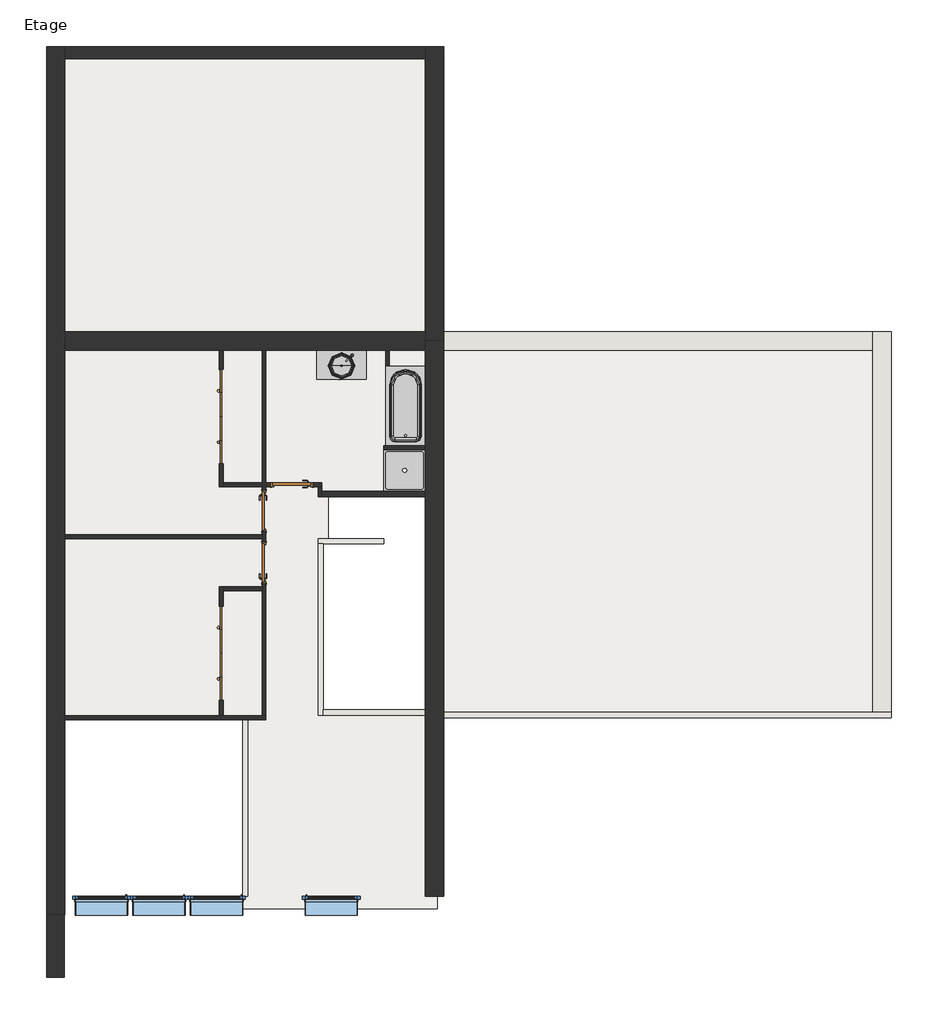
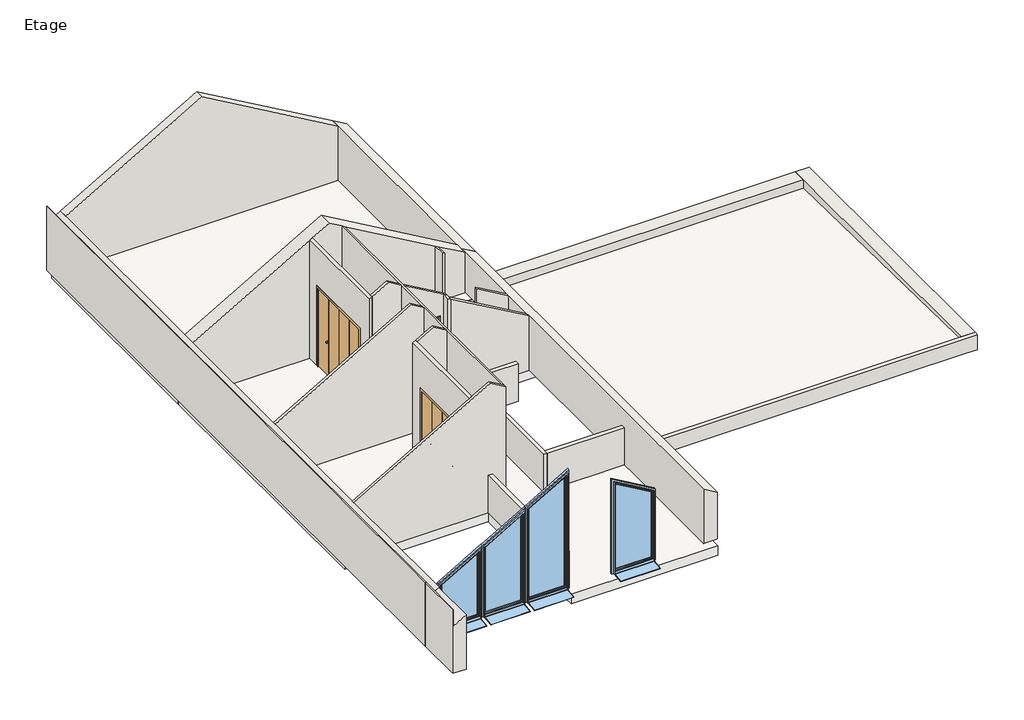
# One storey, incomplete: 25 walls, 5 doors, 4 windows, 3 flow terminals, 3 slabs, 1 furniture element, 1 roof.
"""IFC4 building model written with IfcOpenShell, lengths in millimetres."""

from ifc_helpers import new_model, si_unit, frame, origin, place, context, project, spatial, polyline, outline, extrude, faceted_brep, transform, mapped, element, save
from components import door_180cm_x_210cm_d4e2d69c, int_simple_pp_0_73m_x_2_04m_31faaed5, int_simple_pp_0_73m_x_2_04m_359deddd, flow_terminal_414a0167, flow_terminal_800_x_800mm_07a2eba6, baignoire_rectangulaire_mur_baignoire_rectangulaire_mur_f2afccf1, furniture_900mm_0b803dc7, window_1_vantail_angle_1_00m_x_1_83m_b6dea95d, window_1_vantail_angle_1_00m_x_2_45m_7bd88ca6, window_1_vantail_angle_1_00m_x_2_45m_d07fa77f, window_1_vantail_angle_1_00m_x_3_09m_aeb0207c

model = new_model("IFC4")

# Units and contexts
model_context = context("Model", 3, world=origin())
ifc_project = project(units=[si_unit("LENGTHUNIT", "METRE", prefix="MILLI")], contexts=[model_context])

# Site, building, storey
site = spatial("IfcSite", under=ifc_project)
building = spatial("IfcBuilding", under=site)
storey = spatial("IfcBuildingStorey", under=building, Name="Etage", Elevation=3000.0)

# Doors
placement = place(None, origin())
door_180cm_x_210cm_shape = door_180cm_x_210cm_d4e2d69c(model_context)
element("IfcDoor", 1, ObjectType="Placard double pliante : 180cm x 210cm", at=placement, inside=storey, context=model_context, shape_type="MappedRepresentation", body=[
    mapped(door_180cm_x_210cm_shape, transform((-4616.3224934, 785.4574199, 3000.0), x_axis=(0.0, -1.0, 0.0), y_axis=(1.0, 0.0, 0.0), z_axis=(0.0, 0.0, 1.0))),
])
element("IfcDoor", 2, ObjectType="Placard double pliante : 180cm x 210cm", at=placement, inside=storey, context=model_context, shape_type="MappedRepresentation", body=[
    mapped(door_180cm_x_210cm_shape, transform((-4616.3224934, -3737.5425801, 3000.0), x_axis=(0.0, -1.0, 0.0), y_axis=(1.0, 0.0, 0.0), z_axis=(0.0, 0.0, 1.0))),
])
int_simple_pp_0_73m_x_2_04m_shape = int_simple_pp_0_73m_x_2_04m_31faaed5(model_context)
element("IfcDoor", 3, ObjectType="Int. Simple : PP (0.73m x 2.04m)", at=placement, inside=storey, context=model_context, shape_type="MappedRepresentation", body=[
    mapped(int_simple_pp_0_73m_x_2_04m_shape, transform((-3801.3224934, -1975.0425801, 3000.0), x_axis=(0.0, 1.0, 0.0), y_axis=(-1.0, 0.0, 0.0), z_axis=(0.0, 0.0, 1.0))),
])
int_simple_pp_0_73m_x_2_04m_2_shape = int_simple_pp_0_73m_x_2_04m_359deddd(model_context)
element("IfcDoor", 4, ObjectType="Int. Simple : PP (0.73m x 2.04m)", at=placement, inside=storey, context=model_context, shape_type="MappedRepresentation", body=[
    mapped(int_simple_pp_0_73m_x_2_04m_2_shape, transform((-3801.3224934, -1053.0425801, 3000.0), x_axis=(0.0, -1.0, 0.0), y_axis=(1.0, 0.0, 0.0), z_axis=(0.0, 0.0, 1.0))),
])
element("IfcDoor", 5, ObjectType="Int. Simple : PP (0.73m x 2.04m)", at=placement, inside=storey, context=model_context, shape_type="MappedRepresentation", body=[
    mapped(int_simple_pp_0_73m_x_2_04m_2_shape, transform((-3304.3224934, -520.0425801, 3000.0), x_axis=(-1.0, 0.0, 0.0), y_axis=(0.0, -1.0, 0.0), z_axis=(0.0, 0.0, 1.0))),
])

# Flow terminals
flow_terminal_shape = flow_terminal_414a0167(model_context)
element("IfcFlowTerminal", 6, ObjectType="Lavabo moderne : Lavabo moderne", at=placement, inside=storey, context=model_context, shape_type="MappedRepresentation", body=[
    mapped(flow_terminal_shape, transform((-2344.1723599, 2054.9574199, 3740.0), x_axis=(1.0, 0.0, 0.0), y_axis=(0.0, 1.0, 0.0), z_axis=(0.0, 0.0, 1.0))),
])
flow_terminal_800_x_800mm_shape = flow_terminal_800_x_800mm_07a2eba6(model_context)
element("IfcFlowTerminal", 7, ObjectType="Receveur d'angle - Vidange axée : 800 x 800mm", at=placement, inside=storey, context=model_context, shape_type="MappedRepresentation", body=[
    mapped(flow_terminal_800_x_800mm_shape, transform((-1116.697342, -245.1038978, 3000.0), x_axis=(1.0, 0.0, 0.0), y_axis=(0.0, 1.0, 0.0), z_axis=(0.0, 0.0, 1.0))),
])
baignoire_rectangulaire_mur_baignoire_rectangulaire_mur_shape = baignoire_rectangulaire_mur_baignoire_rectangulaire_mur_f2afccf1(model_context)
element("IfcFlowTerminal", 8, ObjectType="Baignoire rectangulaire - Mur : Baignoire rectangulaire - Mur", at=placement, inside=storey, context=model_context, shape_type="MappedRepresentation", body=[
    mapped(baignoire_rectangulaire_mur_baignoire_rectangulaire_mur_shape, transform((-541.697342, 1337.4990709, 3000.0), x_axis=(0.0, 1.0, 0.0), y_axis=(-1.0, 0.0, 0.0), z_axis=(0.0, 0.0, 1.0))),
])

# Furniture
furniture_900mm_shape = furniture_900mm_0b803dc7(model_context)
element("IfcFurniture", 9, ObjectType="Meuble sous lavabo - Porte simple et 2 tiroirs : 900mm", at=placement, inside=storey, context=model_context, shape_type="MappedRepresentation", body=[
    mapped(furniture_900mm_shape, transform((-2414.2601983, 2054.9574199, 3000.0), x_axis=(1.0, 0.0, 0.0), y_axis=(0.0, 1.0, 0.0), z_axis=(0.0, 0.0, 1.0))),
])

# Roof
element("IfcRoof", 10, ObjectType="Toiture terrasse", at=placement, inside=storey, context=model_context, shape_type="SweptSolid", body=[
    extrude(outline(polyline([(-4867.1038978, 3320.0639936), (2054.9574199, 3181.6227672), (2054.9574199, 2861.5587736), (-4804.9508532, 2998.7569391), (-4867.1038978, 3034.6410162), (-4867.1038978, 3320.0639936)])), frame((-366.697342, 0.0, 0.0), z_axis=(1.0, 0.0, 0.0), x_axis=(0.0, 1.0, 0.0)), (0.0, 0.0, 1.0), 8200.0),
])

# Slabs
element("IfcSlab", 11, ObjectType="Dalle en béton", at=placement, inside=storey, context=model_context, shape_type="Brep", body=[
    faceted_brep([(-486.697342, -8615.0425801, 2750.0), (-4198.697342, -8615.0425801, 2750.0), (-4198.697342, -8385.0425801, 2750.0), (-4198.697342, -4992.0425801, 2750.0), (-4211.697342, -4992.0425801, 2750.0), (-7606.697342, -4992.0425801, 2750.0), (-7836.697342, -4992.0425801, 2750.0), (-7836.697342, 2284.9574199, 2750.0), (-7606.697342, 2284.9574199, 2750.0), (-716.697342, 2284.9574199, 2750.0), (-486.697342, 2284.9574199, 2750.0), (-486.697342, 2229.9574199, 2750.0), (-486.697342, 757.8961022, 2750.0), (-486.697342, -732.1038978, 2750.0), (-716.697342, -732.1038978, 2750.0), (-2577.5004576, -732.1038978, 2750.0), (-2577.5004576, -745.1038978, 2750.0), (-2577.5004576, -1545.1038978, 2750.0), (-2577.5004576, -1632.1038978, 2750.0), (-2619.1256089, -1632.1038978, 2750.0), (-2682.3224934, -1632.1038978, 2750.0), (-2682.3224934, -1645.1038978, 2750.0), (-2682.3224934, -4831.0425801, 2750.0), (-2669.3224934, -4831.0425801, 2750.0), (-716.697342, -4831.0425801, 2750.0), (-486.697342, -4831.0425801, 2750.0), (-486.697342, -8385.0425801, 2750.0), (-486.697342, -8615.0425801, 3000.0), (-486.697342, -8385.0425801, 3000.0), (-486.697342, -4831.0425801, 3000.0), (-716.697342, -4831.0425801, 3000.0), (-2669.3224934, -4831.0425801, 3000.0), (-2682.3224934, -4831.0425801, 3000.0), (-2682.3224934, -1645.1038978, 3000.0), (-2682.3224934, -1632.1038978, 3000.0), (-2619.1256089, -1632.1038978, 3000.0), (-2577.5004576, -1632.1038978, 3000.0), (-2577.5004576, -1545.1038978, 3000.0), (-2577.5004576, -745.1038978, 3000.0), (-2577.5004576, -732.1038978, 3000.0), (-716.697342, -732.1038978, 3000.0), (-486.697342, -732.1038978, 3000.0), (-486.697342, 757.8961022, 3000.0), (-486.697342, 2229.9574199, 3000.0), (-486.697342, 2284.9574199, 3000.0), (-716.697342, 2284.9574199, 3000.0), (-7606.697342, 2284.9574199, 3000.0), (-7836.697342, 2284.9574199, 3000.0), (-7836.697342, -4992.0425801, 3000.0), (-7606.697342, -4992.0425801, 3000.0), (-4211.697342, -4992.0425801, 3000.0), (-4198.697342, -4992.0425801, 3000.0), (-4198.697342, -8385.0425801, 3000.0), (-4198.697342, -8615.0425801, 3000.0)], [[[0, 1, 2, 3, 4, 5, 6, 7, 8, 9, 10, 11, 12, 13, 14, 15, 16, 17, 18, 19, 20, 21, 22, 23, 24, 25, 26]], [[27, 28, 29, 30, 31, 32, 33, 34, 35, 36, 37, 38, 39, 40, 41, 42, 43, 44, 45, 46, 47, 48, 49, 50, 51, 52, 53]], [[1, 0, 27, 53]], [[7, 6, 48, 47]], [[10, 9, 8, 7, 47, 46, 45, 44]], [[0, 26, 25, 29, 28, 27]], [[3, 2, 1, 53, 52, 51]], [[6, 5, 4, 3, 51, 50, 49, 48]], [[13, 12, 11, 10, 44, 43, 42, 41]], [[15, 14, 13, 41, 40, 39]], [[18, 17, 16, 15, 39, 38, 37, 36]], [[20, 19, 18, 36, 35, 34]], [[22, 21, 20, 34, 33, 32]], [[25, 24, 23, 22, 32, 31, 30, 29]]]),
])
element("IfcSlab", 12, ObjectType="Dalle en béton", at=placement, inside=storey, context=model_context, shape_type="Brep", body=[
    faceted_brep([(-486.697342, 7834.9574199, 2750.0), (-486.697342, 2284.9574199, 2750.0), (-7836.697342, 2284.9574199, 2750.0), (-7836.697342, 7624.9574199, 2750.0), (-7836.697342, 7834.9574199, 2750.0), (-5616.5193778, 7834.9574199, 2750.0), (-486.697342, 7834.9574199, 3000.0), (-5616.5193778, 7834.9574199, 3000.0), (-7836.697342, 7834.9574199, 3000.0), (-7836.697342, 7624.9574199, 3000.0), (-7836.697342, 2284.9574199, 3000.0), (-486.697342, 2284.9574199, 3000.0)], [[[0, 1, 2, 3, 4, 5]], [[6, 7, 8, 9, 10, 11]], [[1, 0, 6, 11]], [[2, 1, 11, 10]], [[4, 3, 2, 10, 9, 8]], [[0, 5, 4, 8, 7, 6]]]),
])
element("IfcSlab", 13, ObjectType="Carrelage", at=placement, inside=storey, context=model_context, shape_type="Brep", body=[
    faceted_brep([(-716.697342, 2054.9574199, 3330.0), (-716.697342, 1751.8961022, 3330.0), (-1406.697342, 1751.8961022, 3330.0), (-1478.697342, 1751.8961022, 3330.0), (-1478.697342, 2054.9574199, 3330.0), (-1406.697342, 2054.9574199, 3330.0), (-716.697342, 2054.9574199, 3380.0), (-1406.697342, 2054.9574199, 3380.0), (-1478.697342, 2054.9574199, 3380.0), (-1478.697342, 1751.8961022, 3380.0), (-1406.697342, 1751.8961022, 3380.0), (-716.697342, 1751.8961022, 3380.0)], [[[0, 1, 2, 3, 4, 5]], [[6, 7, 8, 9, 10, 11]], [[1, 0, 6, 11]], [[3, 2, 1, 11, 10, 9]], [[4, 3, 9, 8]], [[0, 5, 4, 8, 7, 6]]]),
])

# Walls
element("IfcWall", 14, ObjectType="Ext. Bardage Métal + Isolant + Béton + Finition", at=placement, inside=storey, context=model_context, shape_type="Brep", body=[
    faceted_brep([(-7956.697342, 7854.9574199, 3000.0), (-7956.697342, 7624.9574199, 3000.0), (-7956.697342, -8735.0425801, 3000.0), (-7956.697342, -8735.0425801, 4700.0), (-7956.697342, 7854.9574199, 4700.0), (-7606.697342, 7854.9574199, 3000.0), (-7606.697342, 7854.9574199, 4452.0725942), (-7606.697342, 7624.9574199, 4452.0725942), (-7606.697342, 2404.9574199, 4452.0725942), (-7606.697342, 2054.9574199, 4452.0725942), (-7606.697342, -1478.0425801, 4452.0725942), (-7606.697342, -1550.0425801, 4452.0725942), (-7606.697342, -4933.0425801, 4452.0725942), (-7606.697342, -5005.0425801, 4452.0725942), (-7606.697342, -8385.0425801, 4452.0725942), (-7606.697342, -8735.0425801, 4452.0725942), (-7606.697342, -8735.0425801, 3000.0), (-7606.697342, -8385.0425801, 3000.0), (-7606.697342, -5005.0425801, 3000.0), (-7606.697342, -4992.0425801, 3000.0), (-7606.697342, -4933.0425801, 3000.0), (-7606.697342, -1550.0425801, 3000.0), (-7606.697342, -1478.0425801, 3000.0), (-7606.697342, 2054.9574199, 3000.0), (-7606.697342, 2284.9574199, 3000.0), (-7606.697342, 2404.9574199, 3000.0), (-7606.697342, 7624.9574199, 3000.0), (-7616.697342, -8735.0425801, 3000.0), (-7936.697342, 7854.9574199, 4700.0), (-7936.697342, 7854.9574199, 4261.5470054), (-7616.697342, -8735.0425801, 4446.2990915), (-7936.697342, -8735.0425801, 4261.5470054), (-7936.697342, -8735.0425801, 4700.0)], [[[0, 1, 2, 3, 4]], [[5, 6, 7, 8, 9, 10, 11, 12, 13, 14, 15, 16, 17, 18, 19, 20, 21, 22, 23, 24, 25, 26]], [[2, 1, 0, 5, 26, 25, 24, 23, 22, 21, 20, 19, 18, 17, 16, 27]], [[0, 4, 28, 29, 6, 5]], [[3, 2, 27, 16, 15, 30, 31, 32]], [[4, 3, 32, 28]], [[28, 32, 31, 29]], [[31, 30, 15, 14, 13, 12, 11, 10, 9, 8, 7, 6, 29]]]),
])
element("IfcWall", 15, ObjectType="Ext. Bardage Bois + Isolant + Béton + Finition", at=placement, inside=storey, context=model_context, shape_type="Brep", body=[
    faceted_brep([(-366.697342, -8385.0425801, 3000.0), (-366.697342, -4967.1038978, 3000.0), (-366.697342, -4867.1038978, 3000.0), (-366.697342, -3635.0425801, 3000.0), (-366.697342, 2054.9574199, 3000.0), (-366.697342, 2229.9574199, 3000.0), (-366.697342, 2229.9574199, 4250.0), (-366.697342, -8385.0425801, 4250.0), (-716.697342, -8385.0425801, 3000.0), (-716.697342, -8385.0425801, 4452.0725942), (-716.697342, -745.1038978, 4452.0725942), (-716.697342, -645.1038978, 4452.0725942), (-716.697342, 154.8961022, 4452.0725942), (-716.697342, 226.8961022, 4452.0725942), (-716.697342, 2054.9574199, 4452.0725942), (-716.697342, 2229.9574199, 4452.0725942), (-716.697342, 2229.9574199, 3000.0), (-716.697342, 2054.9574199, 3000.0), (-716.697342, 226.8961022, 3000.0), (-716.697342, 154.8961022, 3000.0), (-716.697342, -645.1038978, 3000.0), (-716.697342, -732.1038978, 3000.0), (-716.697342, -745.1038978, 3000.0), (-716.697342, -3635.0425801, 3000.0), (-716.697342, -4818.0425801, 3000.0), (-716.697342, -4831.0425801, 3000.0), (-716.697342, -4918.0425801, 3000.0), (-486.697342, -8385.0425801, 3000.0), (-486.697342, 2229.9574199, 3000.0)], [[[0, 1, 2, 3, 4, 5, 6, 7]], [[8, 9, 10, 11, 12, 13, 14, 15, 16, 17, 18, 19, 20, 21, 22, 23, 24, 25, 26]], [[5, 4, 3, 2, 1, 0, 27, 8, 26, 25, 24, 23, 22, 21, 20, 19, 18, 17, 16, 28]], [[0, 7, 9, 8, 27]], [[5, 28, 16, 15, 6]], [[7, 6, 15, 14, 13, 12, 11, 10, 9]]]),
])
element("IfcWall", 16, ObjectType="Ext. Bardage Bois + Isolant + Béton + Finition", at=placement, inside=storey, context=model_context, shape_type="Brep", body=[
    faceted_brep([(-716.697342, 2404.9574199, 4452.0725942), (-716.697342, 2404.9574199, 3000.0), (-7606.697342, 2404.9574199, 3000.0), (-7606.697342, 2404.9574199, 4452.0725942), (-4161.697342, 2404.9574199, 6441.0442716), (-716.697342, 2054.9574199, 3000.0), (-716.697342, 2054.9574199, 4452.0725942), (-1406.697342, 2054.9574199, 4850.44428), (-1478.697342, 2054.9574199, 4892.0134993), (-3765.3224934, 2054.9574199, 6212.197146), (-3837.3224934, 2054.9574199, 6253.7663654), (-4161.697342, 2054.9574199, 6441.0442716), (-4580.3224934, 2054.9574199, 6199.3509277), (-4652.3224934, 2054.9574199, 6157.7817084), (-7606.697342, 2054.9574199, 4452.0725942), (-7606.697342, 2054.9574199, 3000.0), (-4652.3224934, 2054.9574199, 3000.0), (-4580.3224934, 2054.9574199, 3000.0), (-3837.3224934, 2054.9574199, 3000.0), (-3765.3224934, 2054.9574199, 3000.0), (-1478.697342, 2054.9574199, 3000.0), (-1406.697342, 2054.9574199, 3000.0), (-716.697342, 2284.9574199, 3000.0), (-716.697342, 2229.9574199, 3000.0), (-716.697342, 2229.9574199, 4452.0725942)], [[[0, 1, 2, 3, 4]], [[5, 6, 7, 8, 9, 10, 11, 12, 13, 14, 15, 16, 17, 18, 19, 20, 21]], [[2, 1, 22, 23, 5, 21, 20, 19, 18, 17, 16, 15]], [[3, 2, 15, 14]], [[0, 24, 6, 5, 23, 22, 1]], [[0, 4, 11, 10, 9, 8, 7, 6, 24]], [[4, 3, 14, 13, 12, 11]]]),
])
element("IfcWall", 17, ObjectType="Int. Plâtre 70 mm", at=placement, inside=storey, context=model_context, shape_type="Brep", body=[
    faceted_brep([(-7606.697342, -5005.0425801, 3000.0), (-4211.697342, -5005.0425801, 3000.0), (-4111.697342, -5005.0425801, 3000.0), (-3765.3224934, -5005.0425801, 3000.0), (-3765.3224934, -5005.0425801, 6212.197146), (-4161.697342, -5005.0425801, 6441.0442716), (-7606.697342, -5005.0425801, 4452.0725942), (-7606.697342, -4933.0425801, 3000.0), (-7606.697342, -4933.0425801, 4452.0725942), (-4652.3224934, -4933.0425801, 6157.7817084), (-4580.3224934, -4933.0425801, 6199.3509277), (-4161.697342, -4933.0425801, 6441.0442716), (-3837.3224934, -4933.0425801, 6253.7663654), (-3765.3224934, -4933.0425801, 6212.197146), (-3765.3224934, -4933.0425801, 3000.0), (-3837.3224934, -4933.0425801, 3000.0), (-4580.3224934, -4933.0425801, 3000.0), (-4652.3224934, -4933.0425801, 3000.0), (-7606.697342, -4992.0425801, 3000.0)], [[[0, 1, 2, 3, 4, 5, 6]], [[7, 8, 9, 10, 11, 12, 13, 14, 15, 16, 17]], [[3, 2, 1, 0, 18, 7, 17, 16, 15, 14]], [[0, 6, 8, 7, 18]], [[4, 3, 14, 13]], [[6, 5, 11, 10, 9, 8]], [[5, 4, 13, 12, 11]]]),
])
element("IfcWall", 18, ObjectType="Int. Plâtre 70 mm", at=placement, inside=storey, context=model_context, shape_type="Brep", body=[
    faceted_brep([(-3765.3224934, -4933.0425801, 6212.197146), (-3765.3224934, -4933.0425801, 3000.0), (-3765.3224934, -2410.0425801, 3000.0), (-3765.3224934, -2410.0425801, 5075.0), (-3765.3224934, -1610.0425801, 5075.0), (-3765.3224934, -1610.0425801, 3000.0), (-3765.3224934, -1418.0425801, 3000.0), (-3765.3224934, -1418.0425801, 5075.0), (-3765.3224934, -618.0425801, 5075.0), (-3765.3224934, -618.0425801, 3000.0), (-3765.3224934, -556.0425801, 3000.0), (-3765.3224934, -484.0425801, 3000.0), (-3765.3224934, 2054.9574199, 3000.0), (-3765.3224934, 2054.9574199, 6212.197146), (-3765.3224934, -484.0425801, 6212.197146), (-3765.3224934, -556.0425801, 6212.197146), (-3837.3224934, -4933.0425801, 3000.0), (-3837.3224934, -4933.0425801, 6253.7663654), (-3837.3224934, -2542.0425801, 6253.7663654), (-3837.3224934, -2470.0425801, 6253.7663654), (-3837.3224934, -1550.0425801, 6253.7663654), (-3837.3224934, -1478.0425801, 6253.7663654), (-3837.3224934, -556.0425801, 6253.7663654), (-3837.3224934, -484.0425801, 6253.7663654), (-3837.3224934, 2054.9574199, 6253.7663654), (-3837.3224934, 2054.9574199, 3000.0), (-3837.3224934, -484.0425801, 3000.0), (-3837.3224934, -556.0425801, 3000.0), (-3837.3224934, -618.0425801, 3000.0), (-3837.3224934, -618.0425801, 5075.0), (-3837.3224934, -1418.0425801, 5075.0), (-3837.3224934, -1418.0425801, 3000.0), (-3837.3224934, -1478.0425801, 3000.0), (-3837.3224934, -1550.0425801, 3000.0), (-3837.3224934, -1610.0425801, 3000.0), (-3837.3224934, -1610.0425801, 5075.0), (-3837.3224934, -2410.0425801, 5075.0), (-3837.3224934, -2410.0425801, 3000.0), (-3837.3224934, -2470.0425801, 3000.0), (-3837.3224934, -2542.0425801, 3000.0)], [[[0, 1, 2, 3, 4, 5, 6, 7, 8, 9, 10, 11, 12, 13, 14, 15]], [[16, 17, 18, 19, 20, 21, 22, 23, 24, 25, 26, 27, 28, 29, 30, 31, 32, 33, 34, 35, 36, 37, 38, 39]], [[1, 16, 39, 38, 37, 2]], [[25, 12, 11, 10, 9, 28, 27, 26]], [[5, 34, 33, 32, 31, 6]], [[1, 0, 17, 16]], [[13, 12, 25, 24]], [[4, 35, 34, 5]], [[35, 4, 3, 36]], [[36, 3, 2, 37]], [[30, 7, 6, 31]], [[7, 30, 29, 8]], [[8, 29, 28, 9]], [[0, 15, 14, 13, 24, 23, 22, 21, 20, 19, 18, 17]]]),
])
element("IfcWall", 19, ObjectType="Int. Plâtre 70 mm", at=placement, inside=storey, context=model_context, shape_type="Brep", body=[
    faceted_brep([(-4652.3224934, 2054.9574199, 6157.7817084), (-4652.3224934, 2054.9574199, 3000.0), (-4652.3224934, 1685.4574199, 3000.0), (-4652.3224934, 1685.4574199, 5100.0), (-4652.3224934, -114.5425801, 5100.0), (-4652.3224934, -114.5425801, 3000.0), (-4652.3224934, -556.0425801, 3000.0), (-4652.3224934, -556.0425801, 6157.7817084), (-4580.3224934, 2054.9574199, 3000.0), (-4580.3224934, 2054.9574199, 6199.3509277), (-4580.3224934, -484.0425801, 6199.3509277), (-4580.3224934, -556.0425801, 6199.3509277), (-4580.3224934, -556.0425801, 3000.0), (-4580.3224934, -484.0425801, 3000.0), (-4580.3224934, -114.5425801, 3000.0), (-4580.3224934, -114.5425801, 5100.0), (-4580.3224934, 1685.4574199, 5100.0), (-4580.3224934, 1685.4574199, 3000.0)], [[[0, 1, 2, 3, 4, 5, 6, 7]], [[8, 9, 10, 11, 12, 13, 14, 15, 16, 17]], [[1, 8, 17, 2]], [[12, 6, 5, 14, 13]], [[1, 0, 9, 8]], [[7, 6, 12, 11]], [[4, 15, 14, 5]], [[15, 4, 3, 16]], [[16, 3, 2, 17]], [[0, 7, 11, 10, 9]]]),
])
element("IfcWall", 20, ObjectType="Int. Plâtre 70 mm", at=placement, inside=storey, context=model_context, shape_type="SweptSolid", body=[
    extrude(outline(polyline([(3000.0, -4580.3224934), (3000.0, -3837.3224934), (6253.7663654, -3837.3224934), (6441.0442716, -4161.697342), (6199.3509277, -4580.3224934), (3000.0, -4580.3224934)])), frame((0.0, -556.0425801, 0.0), z_axis=(0.0, 1.0, 0.0), x_axis=(0.0, 0.0, 1.0)), (0.0, 0.0, 1.0), 72.0),
])
element("IfcWall", 21, ObjectType="Int. Plâtre 70 mm", at=placement, inside=storey, context=model_context, shape_type="Brep", body=[
    faceted_brep([(-2769.3224934, -556.0425801, 3000.0), (-2769.3224934, -745.1038978, 3000.0), (-2769.3224934, -745.1038978, 5637.1562779), (-2769.3224934, -556.0425801, 5637.1562779), (-2697.3224934, -556.0425801, 3000.0), (-2697.3224934, -556.0425801, 5595.5870585), (-2697.3224934, -645.1038978, 5595.5870585), (-2697.3224934, -745.1038978, 5595.5870585), (-2697.3224934, -745.1038978, 3000.0), (-2697.3224934, -645.1038978, 3000.0)], [[[0, 1, 2, 3]], [[4, 5, 6, 7, 8, 9]], [[1, 0, 4, 9, 8]], [[0, 3, 5, 4]], [[2, 1, 8, 7]], [[3, 2, 7, 6, 5]]]),
])
element("IfcWall", 22, ObjectType="Int. Plâtre 70 mm", at=placement, inside=storey, context=model_context, shape_type="SweptSolid", body=[
    extrude(outline(polyline([(3000.0, -716.697342), (4452.0725942, -716.697342), (4913.9528096, -1516.697342), (3000.0, -1516.697342), (3000.0, -716.697342)])), frame((0.0, 154.8961022, 0.0), z_axis=(0.0, 1.0, 0.0), x_axis=(0.0, 0.0, 1.0)), (0.0, 0.0, 1.0), 72.0),
])
element("IfcWall", 23, ObjectType="Int. Plâtre 70 mm", at=placement, inside=storey, context=model_context, shape_type="Brep", body=[
    faceted_brep([(-4580.3224934, -4933.0425801, 6199.3509277), (-4580.3224934, -4933.0425801, 3000.0), (-4580.3224934, -4637.5425801, 3000.0), (-4580.3224934, -4637.5425801, 5100.0), (-4580.3224934, -2837.5425801, 5100.0), (-4580.3224934, -2837.5425801, 3000.0), (-4580.3224934, -2542.0425801, 3000.0), (-4580.3224934, -2470.0425801, 3000.0), (-4580.3224934, -2470.0425801, 6199.3509277), (-4580.3224934, -2542.0425801, 6199.3509277), (-4652.3224934, -4933.0425801, 3000.0), (-4652.3224934, -4933.0425801, 6157.7817084), (-4652.3224934, -2470.0425801, 6157.7817084), (-4652.3224934, -2470.0425801, 3000.0), (-4652.3224934, -2837.5425801, 3000.0), (-4652.3224934, -2837.5425801, 5100.0), (-4652.3224934, -4637.5425801, 5100.0), (-4652.3224934, -4637.5425801, 3000.0)], [[[0, 1, 2, 3, 4, 5, 6, 7, 8, 9]], [[10, 11, 12, 13, 14, 15, 16, 17]], [[1, 10, 17, 2]], [[13, 7, 6, 5, 14]], [[1, 0, 11, 10]], [[8, 7, 13, 12]], [[16, 3, 2, 17]], [[3, 16, 15, 4]], [[4, 15, 14, 5]], [[0, 9, 8, 12, 11]]]),
])
element("IfcWall", 24, ObjectType="Int. Plâtre 70 mm", at=placement, inside=storey, context=model_context, shape_type="SweptSolid", body=[
    extrude(outline(polyline([(3000.0, -4580.3224934), (3000.0, -3837.3224934), (6253.7663654, -3837.3224934), (6441.0442716, -4161.697342), (6199.3509277, -4580.3224934), (3000.0, -4580.3224934)])), frame((0.0, -2542.0425801, 0.0), z_axis=(0.0, 1.0, 0.0), x_axis=(0.0, 0.0, 1.0)), (0.0, 0.0, 1.0), 72.0),
])
element("IfcWall", 25, ObjectType="Int. Plâtre 70 mm", at=placement, inside=storey, context=model_context, shape_type="SweptSolid", body=[
    extrude(outline(polyline([(3000.0, -3837.3224934), (6253.7663654, -3837.3224934), (6441.0442716, -4161.697342), (4452.0725942, -7606.697342), (3000.0, -7606.697342), (3000.0, -3837.3224934)])), frame((0.0, -1550.0425801, 0.0), z_axis=(0.0, 1.0, 0.0), x_axis=(0.0, 0.0, 1.0)), (0.0, 0.0, 1.0), 72.0),
])
element("IfcWall", 26, ObjectType="Int. Plâtre 100 mm", at=placement, inside=storey, context=model_context, shape_type="Brep", body=[
    faceted_brep([(-716.697342, -645.1038978, 3000.0), (-2697.3224934, -645.1038978, 3000.0), (-2697.3224934, -645.1038978, 5595.5870585), (-716.697342, -645.1038978, 4452.0725942), (-716.697342, -745.1038978, 3000.0), (-716.697342, -745.1038978, 4452.0725942), (-2697.3224934, -745.1038978, 5595.5870585), (-2697.3224934, -745.1038978, 3000.0), (-2577.5004576, -745.1038978, 3000.0), (-716.697342, -732.1038978, 3000.0)], [[[0, 1, 2, 3]], [[4, 5, 6, 7, 8]], [[1, 0, 9, 4, 8, 7]], [[0, 3, 5, 4, 9]], [[2, 1, 7, 6]], [[3, 2, 6, 5]]]),
])
element("IfcWall", 27, ObjectType="Int. Plâtre 100 mm", at=placement, inside=storey, context=model_context, shape_type="Brep", body=[
    faceted_brep([(-2769.3224934, -1645.1038978, 3000.0), (-2682.3224934, -1645.1038978, 3000.0), (-2669.3224934, -1645.1038978, 3000.0), (-2619.1256089, -1645.1038978, 3000.0), (-1515.8753062, -1645.1038978, 3000.0), (-1515.8753062, -1645.1038978, 4000.0), (-2669.3224934, -1645.1038978, 4000.0), (-2769.3224934, -1645.1038978, 4000.0), (-2769.3224934, -1545.1038978, 3000.0), (-2769.3224934, -1545.1038978, 4000.0), (-1515.8753062, -1545.1038978, 4000.0), (-1515.8753062, -1545.1038978, 3000.0), (-2577.5004576, -1545.1038978, 3000.0)], [[[0, 1, 2, 3, 4, 5, 6, 7]], [[8, 9, 10, 11, 12]], [[4, 3, 2, 1, 0, 8, 12, 11]], [[5, 4, 11, 10]], [[7, 6, 5, 10, 9]], [[0, 7, 9, 8]]]),
])
element("IfcWall", 28, ObjectType="Int. Plâtre 100 mm", at=placement, inside=storey, context=model_context, shape_type="Brep", body=[
    faceted_brep([(-2669.3224934, -4918.0425801, 3000.0), (-2669.3224934, -4879.0425801, 3000.0), (-2669.3224934, -4831.0425801, 3000.0), (-2669.3224934, -4818.0425801, 3000.0), (-2669.3224934, -1645.1038978, 3000.0), (-2669.3224934, -1645.1038978, 4000.0), (-2669.3224934, -4818.0425801, 4000.0), (-2669.3224934, -4918.0425801, 4000.0), (-2769.3224934, -4918.0425801, 3000.0), (-2769.3224934, -4918.0425801, 4000.0), (-2769.3224934, -1645.1038978, 4000.0), (-2769.3224934, -1645.1038978, 3000.0), (-2730.3224934, -1645.1038978, 3000.0), (-2682.3224934, -1645.1038978, 3000.0)], [[[0, 1, 2, 3, 4, 5, 6, 7]], [[8, 9, 10, 11]], [[4, 3, 2, 1, 0, 8, 11, 12, 13]], [[7, 6, 5, 10, 9]], [[0, 7, 9, 8]], [[5, 4, 13, 12, 11, 10]]]),
])
element("IfcWall", 29, ObjectType="Int. Plâtre 100 mm", at=placement, inside=storey, context=model_context, shape_type="Brep", body=[
    faceted_brep([(-716.697342, -4818.0425801, 3000.0), (-2669.3224934, -4818.0425801, 3000.0), (-2669.3224934, -4818.0425801, 4000.0), (-716.697342, -4818.0425801, 4000.0), (-716.697342, -4918.0425801, 3000.0), (-716.697342, -4918.0425801, 4000.0), (-2669.3224934, -4918.0425801, 4000.0), (-2669.3224934, -4918.0425801, 3000.0), (-716.697342, -4831.0425801, 3000.0), (-2669.3224934, -4831.0425801, 3000.0)], [[[0, 1, 2, 3]], [[4, 5, 6, 7]], [[1, 0, 8, 4, 7, 9]], [[3, 2, 6, 5]], [[0, 3, 5, 4, 8]], [[2, 1, 9, 7, 6]]]),
])
element("IfcWall", 30, ObjectType="Int. Plâtre 100 mm", at=placement, inside=storey, context=model_context, shape_type="Brep", body=[
    faceted_brep([(-4211.697342, -5005.0425801, 3000.0), (-4211.697342, -8385.0425801, 3000.0), (-4211.697342, -8385.0425801, 4000.0), (-4211.697342, -5005.0425801, 4000.0), (-4111.697342, -5005.0425801, 3000.0), (-4111.697342, -5005.0425801, 4000.0), (-4111.697342, -8385.0425801, 4000.0), (-4111.697342, -8385.0425801, 3000.0), (-4198.697342, -8385.0425801, 3000.0)], [[[0, 1, 2, 3]], [[4, 5, 6, 7]], [[1, 0, 4, 7, 8]], [[3, 2, 6, 5]], [[2, 1, 8, 7, 6]], [[0, 3, 5, 4]]]),
])
element("IfcWall", 31, ObjectType="Ext. Bardage Bois + Béton + Finition", at=placement, inside=storey, context=model_context, shape_type="Brep", body=[
    faceted_brep([(-7606.697342, 7624.9574199, 3000.0), (-716.697342, 7624.9574199, 3000.0), (-716.697342, 7624.9574199, 4452.0725942), (-4161.697342, 7624.9574199, 6441.0442716), (-7606.697342, 7624.9574199, 4452.0725942), (-7606.697342, 7854.9574199, 3000.0), (-7606.697342, 7854.9574199, 4452.0725942), (-4161.697342, 7854.9574199, 6441.0442716), (-716.697342, 7854.9574199, 4452.0725942), (-716.697342, 7854.9574199, 3000.0), (-5616.5193778, 7854.9574199, 3000.0)], [[[0, 1, 2, 3, 4]], [[5, 6, 7, 8, 9, 10]], [[1, 0, 5, 10, 9]], [[0, 4, 6, 5]], [[2, 1, 9, 8]], [[4, 3, 7, 6]], [[3, 2, 8, 7]]]),
])
element("IfcWall", 32, ObjectType="Ext. Bardage Bois + Isolant + Béton + Finition", at=placement, inside=storey, context=model_context, shape_type="Brep", body=[
    faceted_brep([(-366.697342, 2229.9574199, 2750.0), (-366.697342, 2404.9574199, 2750.0), (-366.697342, 7614.9574199, 2750.0), (-366.697342, 7854.9574199, 2750.0), (-366.697342, 7854.9574199, 4250.0), (-366.697342, 2229.9574199, 4250.0), (-366.697342, 2229.9574199, 3000.0), (-716.697342, 7854.9574199, 4452.0725942), (-716.697342, 7854.9574199, 3000.0), (-716.697342, 7854.9574199, 2750.0), (-716.697342, 7614.9574199, 2750.0), (-716.697342, 2404.9574199, 2750.0), (-716.697342, 2284.9574199, 2750.0), (-716.697342, 2284.9574199, 3000.0), (-716.697342, 2229.9574199, 3000.0), (-716.697342, 2229.9574199, 4452.0725942), (-716.697342, 2404.9574199, 4452.0725942), (-716.697342, 7624.9574199, 4452.0725942), (-486.697342, 2229.9574199, 2750.0), (-486.697342, 2284.9574199, 2750.0), (-486.697342, 2284.9574199, 3000.0), (-486.697342, 2229.9574199, 3000.0)], [[[0, 1, 2, 3, 4, 5, 6]], [[7, 8, 9, 10, 11, 12, 13, 14, 15, 16, 17]], [[3, 2, 1, 0, 18, 19, 12, 11, 10, 9]], [[4, 3, 9, 8, 7]], [[13, 20, 21, 14]], [[19, 20, 13, 12]], [[20, 19, 18, 21]], [[0, 6, 5, 15, 14, 21, 18]], [[5, 4, 7, 17, 16, 15]]]),
])
element("IfcWall", 33, ObjectType="Ext. Bardage Métal + Isolant + Béton + Bardage Bois", at=placement, inside=storey, context=model_context, shape_type="SweptSolid", body=[
    extrude(outline(polyline([(4700.0, -7956.697342), (3000.0, -7956.697342), (3000.0, -7616.697342), (4446.2990915, -7616.697342), (4261.5470054, -7936.697342), (4700.0, -7936.697342), (4700.0, -7956.697342)])), frame((0.0, -9932.1038978, 0.0), z_axis=(0.0, 1.0, 0.0), x_axis=(0.0, 0.0, 1.0)), (0.0, 0.0, 1.0), 1197.0613178),
])
element("IfcWall", 34, ObjectType="Int. Plâtre 70 mm", at=placement, inside=storey, context=model_context, shape_type="SweptSolid", body=[
    extrude(outline(polyline([(-1478.697342, 1751.8961022), (-1478.697342, 2054.9574199), (-1406.697342, 2054.9574199), (-1406.697342, 1751.8961022), (-1478.697342, 1751.8961022)])), frame((0.0, 0.0, 3000.0), z_axis=(0.0, 0.0, 1.0), x_axis=(1.0, 0.0, 0.0)), (0.0, 0.0, 1.0), 330.0),
    extrude(outline(polyline([(4850.44428, -1406.697342), (4892.0134993, -1478.697342), (3380.0, -1478.697342), (3380.0, -1406.697342), (4850.44428, -1406.697342)])), frame((0.0, 1751.8961022, 0.0), z_axis=(0.0, 1.0, 0.0), x_axis=(0.0, 0.0, 1.0)), (0.0, 0.0, 1.0), 303.0613178),
])
element("IfcWall", 35, ObjectType="Bardage Bois", at=placement, inside=storey, context=model_context, shape_type="Brep", body=[
    faceted_brep([(-366.697342, -4867.1038978, 3400.0), (7833.302658, -4867.1038978, 3400.0), (8183.302658, -4867.1038978, 3400.0), (8183.302658, -4867.1038978, 3000.0), (7843.302658, -4867.1038978, 3000.0), (7843.302658, -4867.1038978, 3034.6410162), (-366.697342, -4867.1038978, 3034.6410162), (-366.697342, -4967.1038978, 3000.0), (7843.302658, -4967.1038978, 3000.0), (8183.302658, -4967.1038978, 3000.0), (8183.302658, -4967.1038978, 3400.0), (-366.697342, -4967.1038978, 3400.0), (-366.697342, -4947.1038978, 3000.0), (7843.302658, -4947.1038978, 3000.0), (-366.697342, -4947.1038978, 3080.8290377), (7843.302658, -4947.1038978, 3080.8290377)], [[[0, 1, 2, 3, 4, 5, 6]], [[7, 8, 9, 10, 11]], [[9, 8, 7, 12, 13, 4, 3]], [[2, 1, 0, 11, 10]], [[7, 11, 0, 6, 14, 12]], [[3, 2, 10, 9]], [[15, 14, 6, 5]], [[14, 15, 13, 12]], [[13, 15, 5, 4]]]),
])
element("IfcWall", 36, ObjectType="Ext. Bardage Bois + Isolant + Béton + Finition", at=placement, inside=storey, context=model_context, shape_type="Brep", body=[
    faceted_brep([(8183.302658, -4867.1038978, 3000.0), (8183.302658, -3985.0425801, 3000.0), (8183.302658, -3635.0425801, 3000.0), (8183.302658, 2404.9574199, 3000.0), (8183.302658, 2404.9574199, 3400.0), (8183.302658, -4867.1038978, 3400.0), (7833.302658, -4867.1038978, 3000.0), (7833.302658, -4867.1038978, 3034.6410162), (7833.302658, -4867.1038978, 3320.0639936), (7833.302658, -4867.1038978, 3400.0), (7833.302658, 2054.9574199, 3400.0), (7833.302658, 2404.9574199, 3400.0), (7833.302658, 2404.9574199, 3000.0), (7833.302658, 2054.9574199, 3000.0), (7833.302658, -3635.0425801, 3000.0), (7833.302658, -3985.0425801, 3000.0), (7843.302658, -4867.1038978, 3000.0)], [[[0, 1, 2, 3, 4, 5]], [[6, 7, 8, 9, 10, 11, 12, 13, 14, 15]], [[3, 2, 1, 0, 16, 6, 15, 14, 13, 12]], [[5, 4, 11, 10, 9]], [[4, 3, 12, 11]], [[0, 5, 9, 8, 7, 6, 16]]]),
])
element("IfcWall", 37, ObjectType="Ext. Bardage Bois + Isolant + Béton + Finition", at=placement, inside=storey, context=model_context, shape_type="Brep", body=[
    faceted_brep([(7833.302658, 2404.9574199, 3000.0), (-366.697342, 2404.9574199, 3000.0), (-366.697342, 2404.9574199, 3400.0), (7833.302658, 2404.9574199, 3400.0), (7833.302658, 2054.9574199, 3000.0), (7833.302658, 2054.9574199, 3400.0), (-366.697342, 2054.9574199, 3400.0), (-366.697342, 2054.9574199, 3000.0), (-366.697342, 2229.9574199, 3000.0)], [[[0, 1, 2, 3]], [[4, 5, 6, 7]], [[1, 0, 4, 7, 8]], [[3, 2, 6, 5]], [[0, 3, 5, 4]], [[2, 1, 8, 7, 6]]]),
])
element("IfcWall", 38, ObjectType="Int. Plâtre 70 mm", at=placement, inside=storey, context=model_context, shape_type="Brep", body=[
    faceted_brep([(-2697.3224934, -556.0425801, 3000.0), (-2697.3224934, -556.0425801, 5595.5870585), (-2769.3224934, -556.0425801, 5637.1562779), (-3765.3224934, -556.0425801, 6212.197146), (-3765.3224934, -556.0425801, 3000.0), (-3669.3224934, -556.0425801, 3000.0), (-3669.3224934, -556.0425801, 5075.0), (-2869.3224934, -556.0425801, 5075.0), (-2869.3224934, -556.0425801, 3000.0), (-2769.3224934, -556.0425801, 3000.0), (-2697.3224934, -484.0425801, 5595.5870585), (-2697.3224934, -484.0425801, 3000.0), (-2869.3224934, -484.0425801, 3000.0), (-2869.3224934, -484.0425801, 5075.0), (-3669.3224934, -484.0425801, 5075.0), (-3669.3224934, -484.0425801, 3000.0), (-3765.3224934, -484.0425801, 3000.0), (-3765.3224934, -484.0425801, 6212.197146)], [[[0, 1, 2, 3, 4, 5, 6, 7, 8, 9]], [[10, 11, 12, 13, 14, 15, 16, 17]], [[11, 0, 9, 8, 12]], [[4, 16, 15, 5]], [[1, 0, 11, 10]], [[4, 3, 17, 16]], [[3, 2, 1, 10, 17]], [[14, 6, 5, 15]], [[6, 14, 13, 7]], [[7, 13, 12, 8]]]),
])

# Windows
window_1_vantail_angle_1_00m_x_1_83m_shape = window_1_vantail_angle_1_00m_x_1_83m_b6dea95d(model_context)
element("IfcWindow", 39, ObjectType="1 Vantail - Angle : 1.00m x 1.83m", at=placement, inside=storey, context=model_context, shape_type="MappedRepresentation", body=[
    mapped(window_1_vantail_angle_1_00m_x_1_83m_shape, transform((-6906.697342, -8560.0425801, 3000.0), x_axis=(-1.0, 0.0, 0.0), y_axis=(0.0, -1.0, 0.0), z_axis=(0.0, 0.0, 1.0))),
])
window_1_vantail_angle_1_00m_x_2_45m_shape = window_1_vantail_angle_1_00m_x_2_45m_7bd88ca6(model_context)
element("IfcWindow", 40, ObjectType="1 Vantail - Angle : 1.00m x 2.45m", at=placement, inside=storey, context=model_context, shape_type="MappedRepresentation", body=[
    mapped(window_1_vantail_angle_1_00m_x_2_45m_shape, transform((-5806.697342, -8560.0425801, 3000.0), x_axis=(-1.0, 0.0, 0.0), y_axis=(0.0, -1.0, 0.0), z_axis=(0.0, 0.0, 1.0))),
])
window_1_vantail_angle_1_00m_x_2_45m_2_shape = window_1_vantail_angle_1_00m_x_2_45m_d07fa77f(model_context)
element("IfcWindow", 41, ObjectType="1 Vantail - Angle : 1.00m x 2.45m", at=placement, inside=storey, context=model_context, shape_type="MappedRepresentation", body=[
    mapped(window_1_vantail_angle_1_00m_x_2_45m_2_shape, transform((-2516.697342, -8560.0425801, 3000.0), x_axis=(1.0, 0.0, 0.0), y_axis=(0.0, 1.0, 0.0), z_axis=(0.0, 0.0, 1.0))),
])
window_1_vantail_angle_1_00m_x_3_09m_shape = window_1_vantail_angle_1_00m_x_3_09m_aeb0207c(model_context)
element("IfcWindow", 42, ObjectType="1 Vantail - Angle : 1.00m x 3.09m", at=placement, inside=storey, context=model_context, shape_type="MappedRepresentation", body=[
    mapped(window_1_vantail_angle_1_00m_x_3_09m_shape, transform((-4706.697342, -8560.0425801, 3000.0), x_axis=(-1.0, 0.0, 0.0), y_axis=(0.0, -1.0, 0.0), z_axis=(0.0, 0.0, 1.0))),
])

save(model, "model.ifc")
